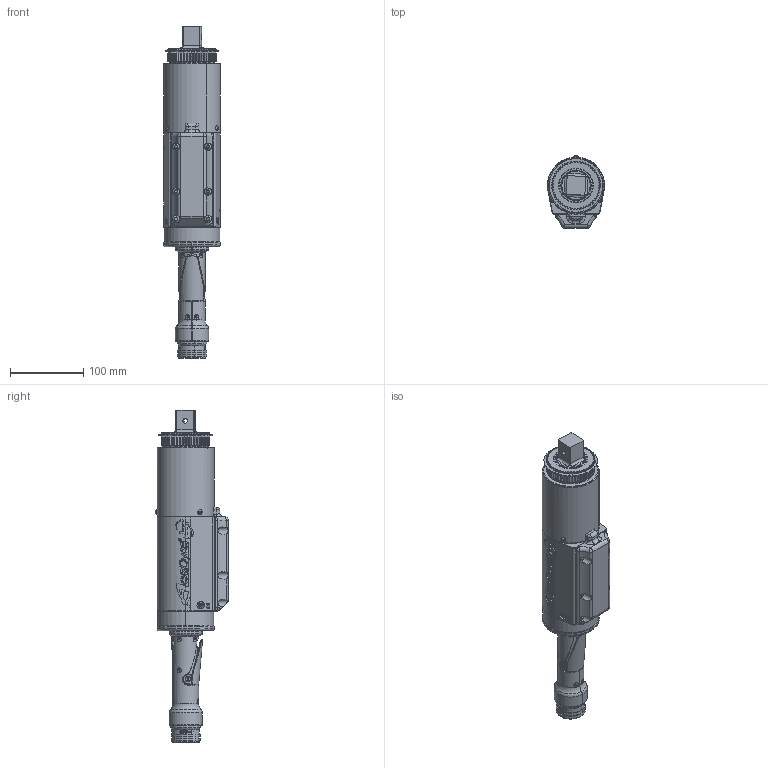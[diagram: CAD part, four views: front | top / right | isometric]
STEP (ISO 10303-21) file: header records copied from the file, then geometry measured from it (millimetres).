
FILE_DESCRIPTION (( 'STEP AP214' ), '1' );
FILE_NAME ('AES4A771200B.STEP', '2016-04-05T18:34:52', ( 'AIMCO' ), ( '' ), 'SwSTEP 2.0', 'SolidWorks 2016', '' );
FILE_SCHEMA (( 'AUTOMOTIVE_DESIGN' ));
Length unit declared in the file: inch
Products named in the file (1): AES4A771200B
Bounding box: 77.47 x 98.5 x 451.77 mm (x, y, z)
Surface area: 174155.8 mm2 (no closed solid volume)
Topology: 0 solids, 95 shells, 1321 faces, 5051 edges, 3606 vertices
Faces by surface type: cylinder 401, plane 386, bspline 203, torus 164, cone 155, sphere 12
Entity records: 128405 total; most frequent: CARTESIAN_POINT 73285, ORIENTED_EDGE 7801, DIRECTION 6808, EDGE_CURVE 5045, VERTEX_POINT 3606, AXIS2_PLACEMENT_3D 2515, LINE 1778, VECTOR 1778
